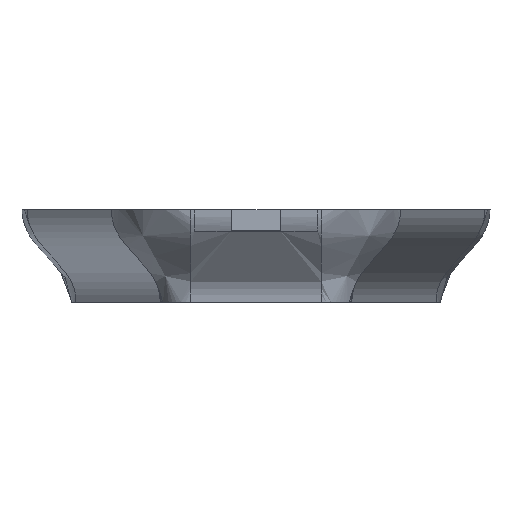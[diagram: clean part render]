
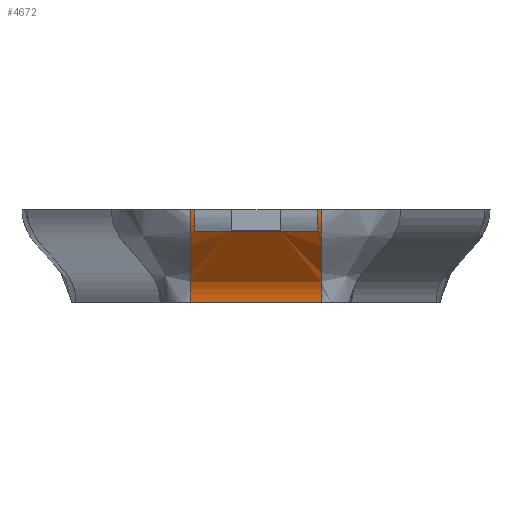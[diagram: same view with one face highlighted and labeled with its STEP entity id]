
A CAD part, left-side view. The second image highlights one B-rep face of the part: STEP entity #4672.
In plain terms, the highlighted free-form (B-spline) face has degree [4, 1] with [5, 2] control points.
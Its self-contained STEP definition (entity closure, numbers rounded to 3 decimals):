
#18=(
BOUNDED_CURVE()
B_SPLINE_CURVE(4,(#18060,#18061,#18062,#18063,#18064),.UNSPECIFIED.,.F.,
 .F.)
B_SPLINE_CURVE_WITH_KNOTS((5,5),(0.,1.),.UNSPECIFIED.)
CURVE()
GEOMETRIC_REPRESENTATION_ITEM()
RATIONAL_B_SPLINE_CURVE((1.,1.,1.,1.,1.))
REPRESENTATION_ITEM('')
);
#19=(
BOUNDED_CURVE()
B_SPLINE_CURVE(4,(#18077,#18078,#18079,#18080,#18081),.UNSPECIFIED.,.F.,
 .F.)
B_SPLINE_CURVE_WITH_KNOTS((5,5),(0.,1.),.UNSPECIFIED.)
CURVE()
GEOMETRIC_REPRESENTATION_ITEM()
RATIONAL_B_SPLINE_CURVE((1.,1.,1.,1.,1.))
REPRESENTATION_ITEM('')
);
#30=(
BOUNDED_SURFACE()
B_SPLINE_SURFACE(4,1,((#18066,#18067),(#18068,#18069),(#18070,#18071),(#18072,
#18073),(#18074,#18075)),.UNSPECIFIED.,.F.,.F.,.F.)
B_SPLINE_SURFACE_WITH_KNOTS((5,5),(2,2),(0.,1.),(0.,2.117),
 .UNSPECIFIED.)
GEOMETRIC_REPRESENTATION_ITEM()
RATIONAL_B_SPLINE_SURFACE(((1.,1.),(1.,1.),(1.,1.),(1.,1.),(1.,1.)))
REPRESENTATION_ITEM('')
SURFACE()
);
#353=FACE_OUTER_BOUND('',#618,.T.);
#618=EDGE_LOOP('',(#4149,#4150,#4151,#4152,#4153,#4154,#4155,#4156,#4157,
#4158));
#1016=B_SPLINE_CURVE_WITH_KNOTS('',3,(#10308,#10309,#10310,#10311,#10312,
#10313),.UNSPECIFIED.,.F.,.F.,(4,2,4),(-1.45,-1.059,-0.65),
 .UNSPECIFIED.);
#1062=B_SPLINE_CURVE_WITH_KNOTS('',3,(#16244,#16245,#16246,#16247,#16248,
#16249,#16250),.UNSPECIFIED.,.F.,.F.,(4,3,4),(-0.366,-0.22,
0.),.UNSPECIFIED.);
#1063=B_SPLINE_CURVE_WITH_KNOTS('',3,(#16251,#16252,#16253,#16254),
 .UNSPECIFIED.,.F.,.F.,(4,4),(-0.65,-0.05),
 .UNSPECIFIED.);
#1064=B_SPLINE_CURVE_WITH_KNOTS('',3,(#16268,#16269,#16270,#16271,#16272,
#16273,#16274),.UNSPECIFIED.,.F.,.F.,(4,3,4),(-0.424,-0.203,
-0.057),.UNSPECIFIED.);
#1065=B_SPLINE_CURVE_WITH_KNOTS('',3,(#16275,#16276,#16277,#16278),
 .UNSPECIFIED.,.F.,.F.,(4,4),(-2.05,-1.45),.UNSPECIFIED.);
#1266=LINE('',#16135,#1513);
#1272=LINE('',#16187,#1519);
#1343=LINE('',#18082,#1590);
#1513=VECTOR('',#5653,10.);
#1519=VECTOR('',#5667,10.);
#1590=VECTOR('',#5986,10.);
#1874=VERTEX_POINT('',#10306);
#1875=VERTEX_POINT('',#10307);
#1946=VERTEX_POINT('',#16132);
#1947=VERTEX_POINT('',#16134);
#1958=VERTEX_POINT('',#16184);
#1959=VERTEX_POINT('',#16186);
#1970=VERTEX_POINT('',#16243);
#1971=VERTEX_POINT('',#16267);
#2063=VERTEX_POINT('',#18059);
#2064=VERTEX_POINT('',#18076);
#2458=EDGE_CURVE('',#1874,#1875,#1016,.T.);
#2587=EDGE_CURVE('',#1946,#1947,#1266,.T.);
#2599=EDGE_CURVE('',#1958,#1959,#1272,.T.);
#2622=EDGE_CURVE('',#1970,#1959,#1062,.T.);
#2623=EDGE_CURVE('',#1875,#1970,#1063,.T.);
#2624=EDGE_CURVE('',#1946,#1971,#1064,.T.);
#2625=EDGE_CURVE('',#1971,#1874,#1065,.T.);
#2769=EDGE_CURVE('',#1947,#2063,#18,.T.);
#2771=EDGE_CURVE('',#1958,#2064,#19,.T.);
#2772=EDGE_CURVE('',#2063,#2064,#1343,.T.);
#4149=ORIENTED_EDGE('',*,*,#2622,.T.);
#4150=ORIENTED_EDGE('',*,*,#2599,.F.);
#4151=ORIENTED_EDGE('',*,*,#2771,.T.);
#4152=ORIENTED_EDGE('',*,*,#2772,.F.);
#4153=ORIENTED_EDGE('',*,*,#2769,.F.);
#4154=ORIENTED_EDGE('',*,*,#2587,.F.);
#4155=ORIENTED_EDGE('',*,*,#2624,.T.);
#4156=ORIENTED_EDGE('',*,*,#2625,.T.);
#4157=ORIENTED_EDGE('',*,*,#2458,.T.);
#4158=ORIENTED_EDGE('',*,*,#2623,.T.);
#4672=ADVANCED_FACE('',(#353),#30,.T.);
#5653=DIRECTION('',(0.,-1.,0.));
#5667=DIRECTION('',(0.,-1.,0.));
#5986=DIRECTION('',(0.,1.,0.));
#10306=CARTESIAN_POINT('',(-107.158,-4.,-90.4));
#10307=CARTESIAN_POINT('',(-107.158,4.,-90.4));
#10308=CARTESIAN_POINT('Ctrl Pts',(-107.158,-4.,
-90.4));
#10309=CARTESIAN_POINT('Ctrl Pts',(-107.158,-2.695,
-90.4));
#10310=CARTESIAN_POINT('Ctrl Pts',(-107.158,-1.391,
-90.4));
#10311=CARTESIAN_POINT('Ctrl Pts',(-107.158,1.276,-90.4));
#10312=CARTESIAN_POINT('Ctrl Pts',(-107.158,2.638,-90.4));
#10313=CARTESIAN_POINT('Ctrl Pts',(-107.158,4.,-90.4));
#16132=CARTESIAN_POINT('',(-108.,-10.,-86.9));
#16134=CARTESIAN_POINT('',(-108.,-10.586,-86.9));
#16135=CARTESIAN_POINT('',(-108.,10.586,-86.9));
#16184=CARTESIAN_POINT('',(-108.,10.586,-86.9));
#16186=CARTESIAN_POINT('',(-108.,10.,-86.9));
#16187=CARTESIAN_POINT('',(-108.,10.586,-86.9));
#16243=CARTESIAN_POINT('',(-107.158,10.,-90.4));
#16244=CARTESIAN_POINT('Ctrl Pts',(-107.158,10.,-90.4));
#16245=CARTESIAN_POINT('Ctrl Pts',(-107.377,10.,-89.97));
#16246=CARTESIAN_POINT('Ctrl Pts',(-107.557,10.,-89.525));
#16247=CARTESIAN_POINT('Ctrl Pts',(-107.695,10.,-89.058));
#16248=CARTESIAN_POINT('Ctrl Pts',(-107.903,10.,-88.352));
#16249=CARTESIAN_POINT('Ctrl Pts',(-108.,10.,-87.635));
#16250=CARTESIAN_POINT('Ctrl Pts',(-108.,10.,-86.9));
#16251=CARTESIAN_POINT('Ctrl Pts',(-107.158,4.,-90.4));
#16252=CARTESIAN_POINT('Ctrl Pts',(-107.158,6.,-90.4));
#16253=CARTESIAN_POINT('Ctrl Pts',(-107.158,8.,-90.4));
#16254=CARTESIAN_POINT('Ctrl Pts',(-107.158,10.,-90.4));
#16267=CARTESIAN_POINT('',(-107.158,-10.,-90.4));
#16268=CARTESIAN_POINT('Ctrl Pts',(-108.,-10.,-86.9));
#16269=CARTESIAN_POINT('Ctrl Pts',(-108.,-10.,-87.635));
#16270=CARTESIAN_POINT('Ctrl Pts',(-107.903,-10.,
-88.352));
#16271=CARTESIAN_POINT('Ctrl Pts',(-107.695,-10.,
-89.058));
#16272=CARTESIAN_POINT('Ctrl Pts',(-107.557,-10.,
-89.525));
#16273=CARTESIAN_POINT('Ctrl Pts',(-107.377,-10.,
-89.97));
#16274=CARTESIAN_POINT('Ctrl Pts',(-107.158,-10.,
-90.4));
#16275=CARTESIAN_POINT('Ctrl Pts',(-107.158,-10.,
-90.4));
#16276=CARTESIAN_POINT('Ctrl Pts',(-107.158,-8.,
-90.4));
#16277=CARTESIAN_POINT('Ctrl Pts',(-107.158,-6.,
-90.4));
#16278=CARTESIAN_POINT('Ctrl Pts',(-107.158,-4.,
-90.4));
#18059=CARTESIAN_POINT('',(-100.,-10.586,-101.9));
#18060=CARTESIAN_POINT('Ctrl Pts',(-108.,-10.586,-86.9));
#18061=CARTESIAN_POINT('Ctrl Pts',(-108.,-10.586,-91.9));
#18062=CARTESIAN_POINT('Ctrl Pts',(-104.,-10.586,-94.4));
#18063=CARTESIAN_POINT('Ctrl Pts',(-100.,-10.586,
-96.9));
#18064=CARTESIAN_POINT('Ctrl Pts',(-100.,-10.586,
-101.9));
#18066=CARTESIAN_POINT('Ctrl Pts',(-108.,10.586,-86.9));
#18067=CARTESIAN_POINT('Ctrl Pts',(-108.,-10.586,-86.9));
#18068=CARTESIAN_POINT('Ctrl Pts',(-108.,10.586,-91.9));
#18069=CARTESIAN_POINT('Ctrl Pts',(-108.,-10.586,-91.9));
#18070=CARTESIAN_POINT('Ctrl Pts',(-104.,10.586,-94.4));
#18071=CARTESIAN_POINT('Ctrl Pts',(-104.,-10.586,-94.4));
#18072=CARTESIAN_POINT('Ctrl Pts',(-100.,10.586,-96.9));
#18073=CARTESIAN_POINT('Ctrl Pts',(-100.,-10.586,
-96.9));
#18074=CARTESIAN_POINT('Ctrl Pts',(-100.,10.586,-101.9));
#18075=CARTESIAN_POINT('Ctrl Pts',(-100.,-10.586,
-101.9));
#18076=CARTESIAN_POINT('',(-100.,10.586,-101.9));
#18077=CARTESIAN_POINT('Ctrl Pts',(-108.,10.586,-86.9));
#18078=CARTESIAN_POINT('Ctrl Pts',(-108.,10.586,-91.9));
#18079=CARTESIAN_POINT('Ctrl Pts',(-104.,10.586,-94.4));
#18080=CARTESIAN_POINT('Ctrl Pts',(-100.,10.586,-96.9));
#18081=CARTESIAN_POINT('Ctrl Pts',(-100.,10.586,-101.9));
#18082=CARTESIAN_POINT('',(-100.,-15.,-101.9));
